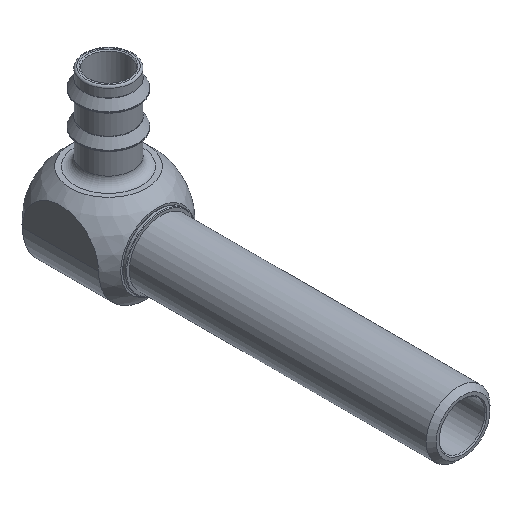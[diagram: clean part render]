
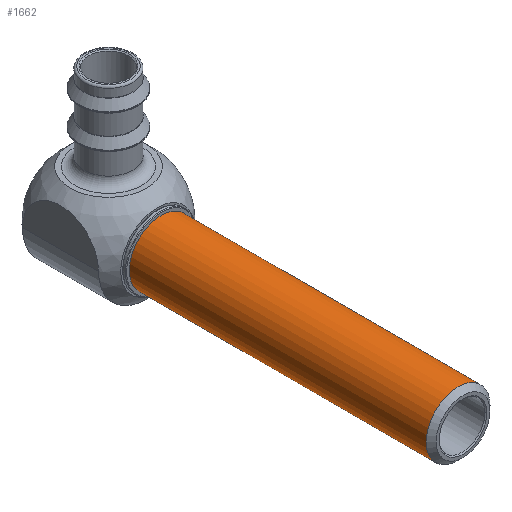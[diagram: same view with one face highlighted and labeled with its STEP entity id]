
A CAD part, isometric view. The second image highlights one B-rep face of the part: STEP entity #1662.
In plain terms, the highlighted cylindrical face has radius 8.268 mm (diameter 16.537 mm), a full revolution.
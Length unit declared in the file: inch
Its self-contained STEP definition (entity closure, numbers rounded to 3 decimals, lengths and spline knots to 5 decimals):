
#123=LINE('',#3054,#170);
#170=VECTOR('',#2452,0.335);
#208=CYLINDRICAL_SURFACE('',#1925,0.32553);
#273=FACE_OUTER_BOUND('',#378,.T.);
#378=EDGE_LOOP('',(#1394,#1395,#1396,#1397,#1398));
#559=CIRCLE('',#1923,0.32553);
#560=CIRCLE('',#1924,0.32553);
#561=CIRCLE('',#1926,0.32553);
#741=VERTEX_POINT('',#3047);
#742=VERTEX_POINT('',#3049);
#743=VERTEX_POINT('',#3053);
#971=EDGE_CURVE('',#741,#742,#559,.F.);
#972=EDGE_CURVE('',#742,#741,#560,.F.);
#973=EDGE_CURVE('',#742,#743,#123,.T.);
#974=EDGE_CURVE('',#743,#743,#561,.F.);
#1394=ORIENTED_EDGE('',*,*,#972,.F.);
#1395=ORIENTED_EDGE('',*,*,#973,.T.);
#1396=ORIENTED_EDGE('',*,*,#974,.T.);
#1397=ORIENTED_EDGE('',*,*,#973,.F.);
#1398=ORIENTED_EDGE('',*,*,#971,.F.);
#1662=ADVANCED_FACE('',(#273),#208,.T.);
#1923=AXIS2_PLACEMENT_3D('',#3050,#2446,#2447);
#1924=AXIS2_PLACEMENT_3D('',#3051,#2448,#2449);
#1925=AXIS2_PLACEMENT_3D('',#3052,#2450,#2451);
#1926=AXIS2_PLACEMENT_3D('',#3055,#2453,#2454);
#2446=DIRECTION('center_axis',(0.,1.,0.));
#2447=DIRECTION('ref_axis',(0.,0.,-1.));
#2448=DIRECTION('center_axis',(0.,1.,0.));
#2449=DIRECTION('ref_axis',(0.,0.,-1.));
#2450=DIRECTION('center_axis',(0.,-1.,0.));
#2451=DIRECTION('ref_axis',(0.,0.,-1.));
#2452=DIRECTION('',(0.,1.,0.));
#2453=DIRECTION('center_axis',(0.,1.,0.));
#2454=DIRECTION('ref_axis',(0.,0.,-1.));
#3047=CARTESIAN_POINT('',(0.,-3.02947,-0.32553));
#3049=CARTESIAN_POINT('',(0.,-3.02947,0.32553));
#3050=CARTESIAN_POINT('Origin',(0.,-3.02947,0.));
#3051=CARTESIAN_POINT('Origin',(0.,-3.02947,0.));
#3052=CARTESIAN_POINT('Origin',(0.,-1.54,0.));
#3053=CARTESIAN_POINT('',(0.,0.,0.32553));
#3054=CARTESIAN_POINT('',(0.,-1.54,0.32553));
#3055=CARTESIAN_POINT('Origin',(0.,0.,0.));
